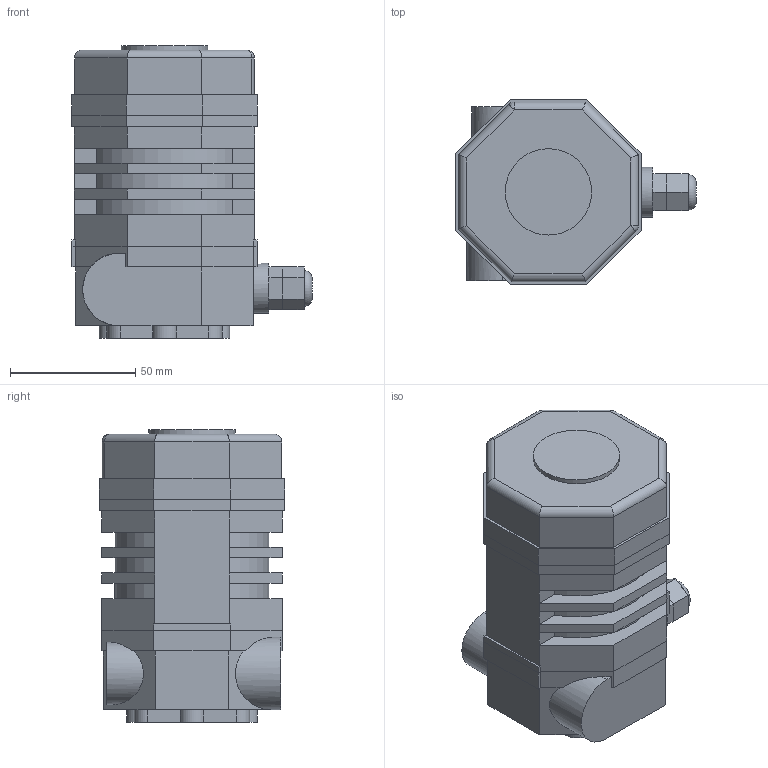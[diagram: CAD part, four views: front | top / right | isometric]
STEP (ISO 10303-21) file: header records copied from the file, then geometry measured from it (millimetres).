
FILE_DESCRIPTION((' '),'2;1');
FILE_NAME('N:\Technical Support\Private\Jomar Valve CAD\Actuation\AE\AE-180\AE-180FusionCopy.stp','2017-06-05T13:44:13',(' '),(' '),' ','ACIS',' ');
FILE_SCHEMA(('CONFIG_CONTROL_DESIGN'));
Length unit declared in the file: inch
Products named in the file (7): N:\Technical Support\Private\Jomar Valve CAD\Actuation\AE\AE-180\AE-180FusionCopy.stp; Body1; Body2; Body3; Body4; Body5; Body6
Assembly tree (6 placements, depth 2):
  N:\Technical Support\Private\Jomar Valve CAD\Actuation\AE\AE-180\AE-180FusionCopy.stp
    Body1
    Body2
    Body3
    Body4
    Body5
    Body6
Bounding box: 96.08 x 74.04 x 117.09 mm (x, y, z)
Volume: 477103 mm3; surface area: 68131.4 mm2
Topology: 6 solids, 6 shells, 222 faces, 539 edges, 346 vertices
Faces by surface type: plane 177, cylinder 42, sphere 2, torus 1
Full cylindrical faces by diameter (mm): 4.064 x8, 4.953 x4, 19.939 x1, 21.59 x2, 34.544 x1
Entity records: 7262 total; most frequent: CARTESIAN_POINT 1099, DIRECTION 1072, ORIENTED_EDGE 1038, EDGE_CURVE 519, VECTOR 436, LINE 436, VERTEX_POINT 345, AXIS2_PLACEMENT_3D 318
